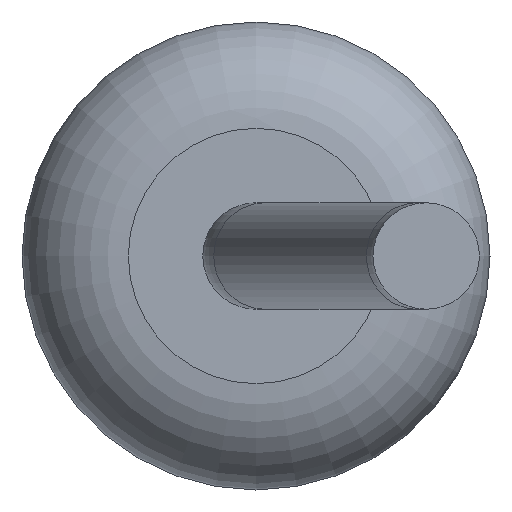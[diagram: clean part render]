
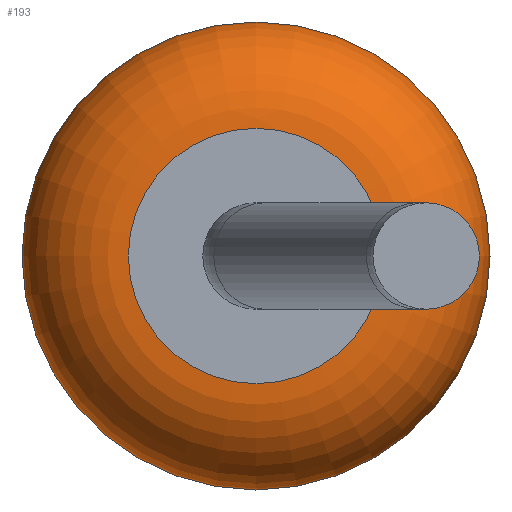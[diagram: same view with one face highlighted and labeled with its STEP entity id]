
A CAD part, left-side view. The second image highlights one B-rep face of the part: STEP entity #193.
In plain terms, the highlighted toroidal (fillet/blend) face has major radius 0.6 mm and minor radius 0.5 mm.
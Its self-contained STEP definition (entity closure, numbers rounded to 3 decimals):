
#193=ADVANCED_FACE('',(#398,#400),#402,.T.);
#398=FACE_OUTER_BOUND('',#399,.T.);
#399=EDGE_LOOP('',(#497));
#400=FACE_OUTER_BOUND('',#401,.T.);
#401=EDGE_LOOP('',(#498));
#402=TOROIDAL_SURFACE('',#403,0.6,0.5);
#403=AXIS2_PLACEMENT_3D('',#404,#405,#406);
#404=CARTESIAN_POINT('',(-2.5,0.,0.));
#405=DIRECTION('',(-1.,0.,0.));
#406=DIRECTION('',(0.,0.,1.));
#497=ORIENTED_EDGE('',*,*,#526,.T.);
#498=ORIENTED_EDGE('',*,*,#527,.F.);
#526=EDGE_CURVE('',#562,#562,#563,.T.);
#527=EDGE_CURVE('',#564,#564,#565,.T.);
#562=VERTEX_POINT('',#648);
#563=CIRCLE('',#649,1.1);
#564=VERTEX_POINT('',#653);
#565=CIRCLE('',#654,0.6);
#648=CARTESIAN_POINT('',(-2.5,0.,1.1));
#649=AXIS2_PLACEMENT_3D('',#650,#651,#652);
#650=CARTESIAN_POINT('',(-2.5,0.,0.));
#651=DIRECTION('',(-1.,0.,0.));
#652=DIRECTION('',(0.,0.,1.));
#653=CARTESIAN_POINT('',(-3.,0.,0.6));
#654=AXIS2_PLACEMENT_3D('',#655,#656,#657);
#655=CARTESIAN_POINT('',(-3.,0.,0.));
#656=DIRECTION('',(-1.,0.,0.));
#657=DIRECTION('',(0.,0.,1.));
